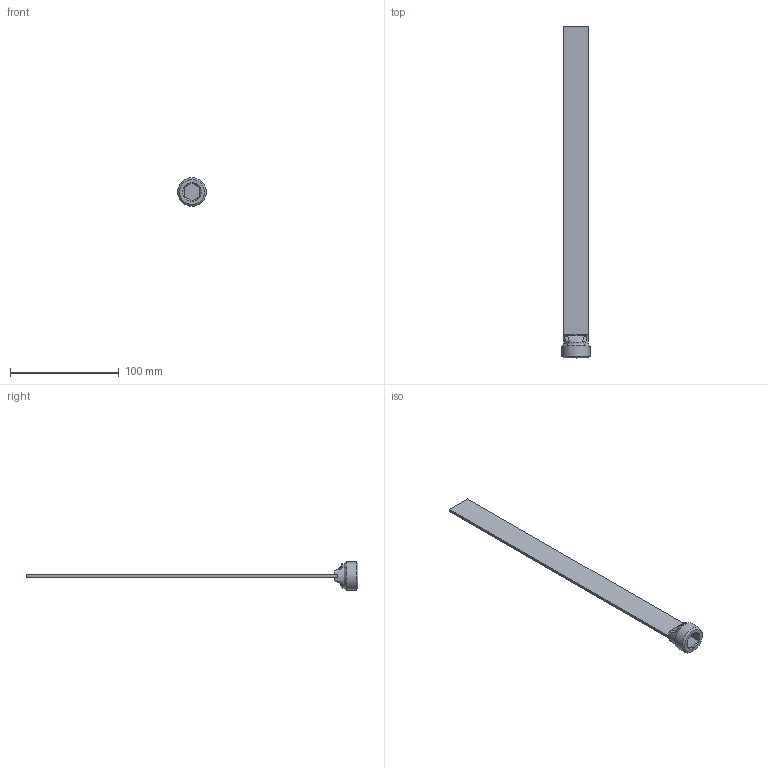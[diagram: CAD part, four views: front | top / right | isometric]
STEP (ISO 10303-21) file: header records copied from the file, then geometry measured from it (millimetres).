
FILE_DESCRIPTION(/* description */ (''),/* implementation_level */ '2;1');
FILE_NAME(/* name */ 'C:/Users/drich/Desktop/SB34X12 v5.step',/* time_stamp */ '2020-01-14T10:06:19-06:00',/* author */ (''),/* organization */ (''),/* preprocessor_version */ 'ST-DEVELOPER v18',/* originating_system */ 'Autodesk Translation Framework v8.12.0.6',/* authorisation */ '');
FILE_SCHEMA (('AUTOMOTIVE_DESIGN { 1 0 10303 214 3 1 1 }'));
Length unit declared in the file: inch
Products named in the file (1): SB34X12
Bounding box: 26.3 x 304.8 x 26.3 mm (x, y, z)
Volume: 22747 mm3; surface area: 17729.3 mm2
Topology: 1 solids, 1 shells, 37 faces, 95 edges, 62 vertices
Faces by surface type: plane 20, cylinder 6, bspline 6, cone 3, torus 2
Full cylindrical faces by diameter (mm): 22.504 x1, 26.299 x1
Entity records: 1454 total; most frequent: CARTESIAN_POINT 560, ORIENTED_EDGE 190, DIRECTION 159, EDGE_CURVE 95, VERTEX_POINT 62, AXIS2_PLACEMENT_3D 58, LINE 43, VECTOR 43
